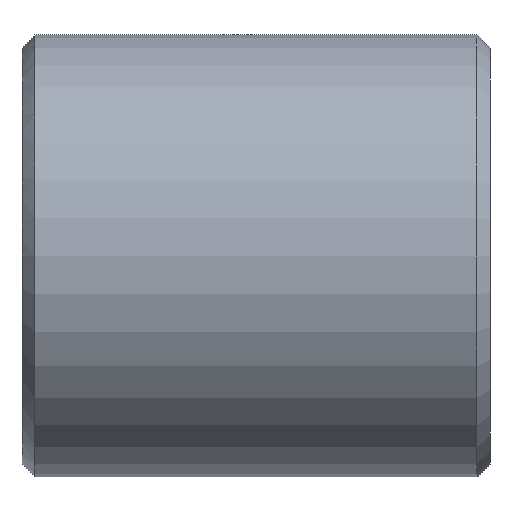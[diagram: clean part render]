
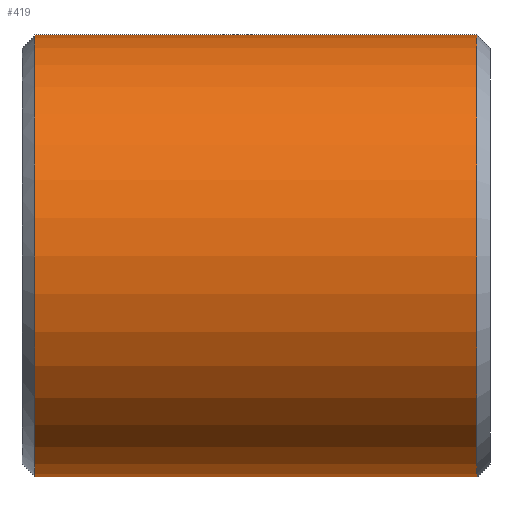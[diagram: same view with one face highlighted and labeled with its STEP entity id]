
A CAD part, front view. The second image highlights one B-rep face of the part: STEP entity #419.
In plain terms, the highlighted cylindrical face has radius 17 mm (diameter 34 mm), a partial arc.
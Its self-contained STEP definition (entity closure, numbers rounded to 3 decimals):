
#231=CARTESIAN_POINT('Vertex',(1.,0.,-17.)) ;
#238=CARTESIAN_POINT('Vertex',(1.,0.,17.)) ;
#267=CARTESIAN_POINT('Axis2P3D Location',(1.,0.,0.)) ;
#271=CARTESIAN_POINT('Vertex',(1.,-17.,0.)) ;
#274=CARTESIAN_POINT('Axis2P3D Location',(1.,0.,0.)) ;
#359=CARTESIAN_POINT('Line Origine',(36.,0.,17.)) ;
#363=CARTESIAN_POINT('Vertex',(35.,0.,17.)) ;
#377=CARTESIAN_POINT('Vertex',(35.,0.,-17.)) ;
#380=CARTESIAN_POINT('Line Origine',(36.,0.,-17.)) ;
#394=CARTESIAN_POINT('Axis2P3D Location',(36.,0.,0.)) ;
#399=CARTESIAN_POINT('Axis2P3D Location',(35.,0.,0.)) ;
#403=CARTESIAN_POINT('Vertex',(35.,-17.,0.)) ;
#406=CARTESIAN_POINT('Axis2P3D Location',(35.,0.,0.)) ;
#268=DIRECTION('Axis2P3D Direction',(1.,0.,-0.)) ;
#275=DIRECTION('Axis2P3D Direction',(1.,0.,-0.)) ;
#360=DIRECTION('Vector Direction',(-1.,0.,0.)) ;
#381=DIRECTION('Vector Direction',(-1.,0.,0.)) ;
#395=DIRECTION('Axis2P3D Direction',(-1.,-0.,-0.)) ;
#396=DIRECTION('Axis2P3D XDirection',(0.,0.,-1.)) ;
#400=DIRECTION('Axis2P3D Direction',(-1.,-0.,-0.)) ;
#407=DIRECTION('Axis2P3D Direction',(-1.,-0.,-0.)) ;
#269=AXIS2_PLACEMENT_3D('Circle Axis2P3D',#267,#268,$) ;
#276=AXIS2_PLACEMENT_3D('Circle Axis2P3D',#274,#275,$) ;
#397=AXIS2_PLACEMENT_3D('Cylinder Axis2P3D',#394,#395,#396) ;
#401=AXIS2_PLACEMENT_3D('Circle Axis2P3D',#399,#400,$) ;
#408=AXIS2_PLACEMENT_3D('Circle Axis2P3D',#406,#407,$) ;
#412=ORIENTED_EDGE('',*,*,#384,.T.) ;
#413=ORIENTED_EDGE('',*,*,#405,.F.) ;
#414=ORIENTED_EDGE('',*,*,#410,.F.) ;
#415=ORIENTED_EDGE('',*,*,#365,.T.) ;
#416=ORIENTED_EDGE('',*,*,#278,.T.) ;
#417=ORIENTED_EDGE('',*,*,#273,.T.) ;
#361=VECTOR('Line Direction',#360,1.) ;
#382=VECTOR('Line Direction',#381,1.) ;
#419=ADVANCED_FACE('352-25X36',(#418),#398,.T.) ;
#270=CIRCLE('generated circle',#269,17.) ;
#277=CIRCLE('generated circle',#276,17.) ;
#402=CIRCLE('generated circle',#401,17.) ;
#409=CIRCLE('generated circle',#408,17.) ;
#398=CYLINDRICAL_SURFACE('generated cylinder',#397,17.) ;
#273=EDGE_CURVE('',#272,#232,#270,.T.) ;
#278=EDGE_CURVE('',#239,#272,#277,.T.) ;
#365=EDGE_CURVE('',#364,#239,#362,.T.) ;
#384=EDGE_CURVE('',#232,#378,#383,.F.) ;
#405=EDGE_CURVE('',#404,#378,#402,.F.) ;
#410=EDGE_CURVE('',#364,#404,#409,.F.) ;
#411=EDGE_LOOP('',(#412,#413,#414,#415,#416,#417)) ;
#418=FACE_OUTER_BOUND('',#411,.T.) ;
#362=LINE('Line',#359,#361) ;
#383=LINE('Line',#380,#382) ;
#232=VERTEX_POINT('',#231) ;
#239=VERTEX_POINT('',#238) ;
#272=VERTEX_POINT('',#271) ;
#364=VERTEX_POINT('',#363) ;
#378=VERTEX_POINT('',#377) ;
#404=VERTEX_POINT('',#403) ;
